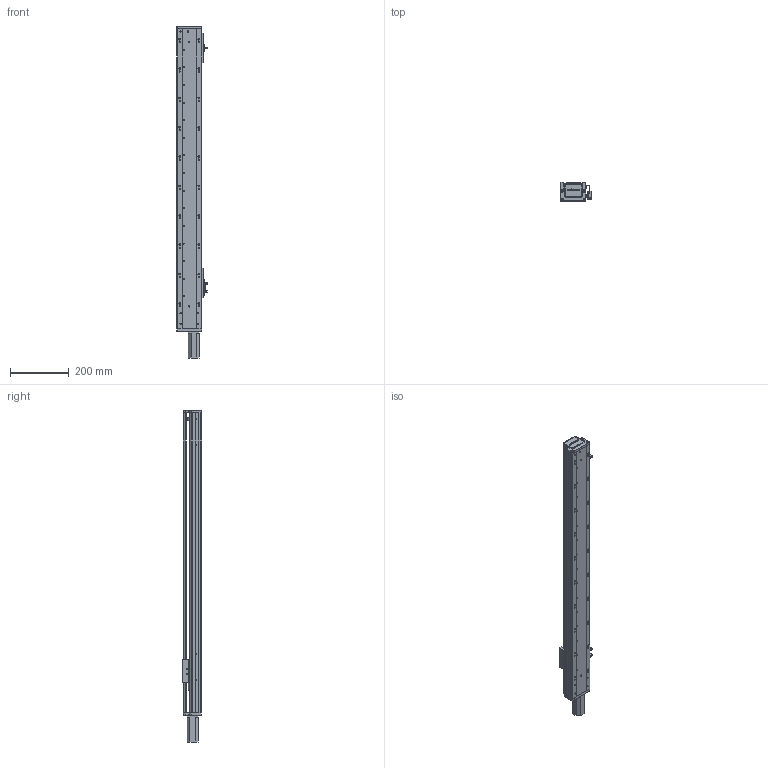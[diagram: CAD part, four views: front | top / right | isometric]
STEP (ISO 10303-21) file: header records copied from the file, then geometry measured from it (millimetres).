
FILE_DESCRIPTION (( 'STEP AP203' ), '1' );
FILE_NAME ('RY80-L1620-300-MK(100W).SLDASM_800.step', '2021-02-20T02:20:05', ( '' ), ( '' ), 'SwSTEP 2.0', 'SolidWorks 2012', '' );
FILE_SCHEMA (( 'CONFIG_CONTROL_DESIGN' ));
Length unit declared in the file: millimetre
Products named in the file (12): RY80-L1620-300-MK(100W).SLDASM_800; 侂狟100W; 覜茼ん672; 滅袉蝶18-24; RY80俋离覜茼え; RY80前盖板(100W电机)M3; RY80綴裔啣; 滅袉蝶18-10; 672嫖萇羲壽假蚾釱; RY80臏賑輸; RY80-300-MK倰第奻裔啣_800; RY80-300-MK倰第菁釱_800
Assembly tree (14 placements, depth 2):
  RY80-L1620-300-MK(100W).SLDASM_800
    RY80-300-MK倰第菁釱_800
    RY80臏賑輸
    RY80-300-MK倰第奻裔啣_800
    RY80前盖板(100W电机)M3
    RY80綴裔啣
    滅袉蝶18-10
    672嫖萇羲壽假蚾釱  x2
    覜茼ん672  x3
    RY80俋离覜茼え
    滅袉蝶18-24
    侂狟100W
Bounding box: 103.7 x 65 x 1131 mm (x, y, z)
Volume: 1642733.8 mm3; surface area: 697464 mm2
Topology: 14 solids, 14 shells, 1707 faces, 4815 edges, 3145 vertices
Faces by surface type: plane 932, cylinder 665, cone 76, bspline 34
Entity records: 55000 total; most frequent: CARTESIAN_POINT 15323, ORIENTED_EDGE 8398, DIRECTION 7376, EDGE_CURVE 4199, VERTEX_POINT 2761, VECTOR 2468, LINE 2468, AXIS2_PLACEMENT_3D 2454
